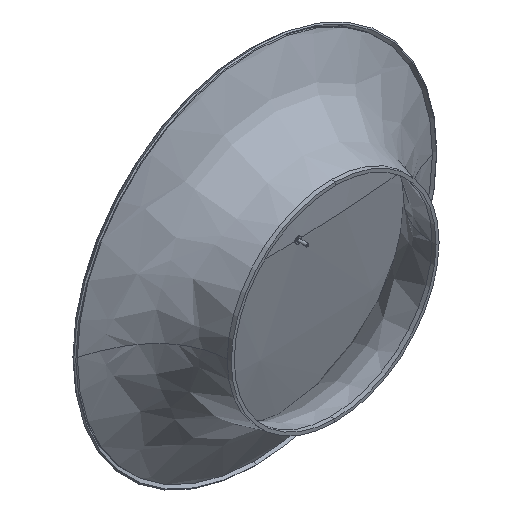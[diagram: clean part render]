
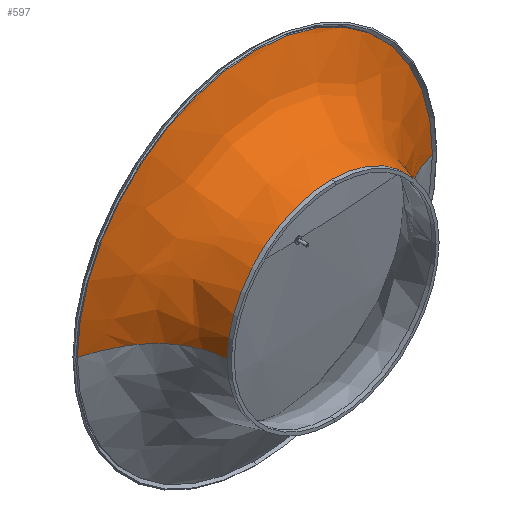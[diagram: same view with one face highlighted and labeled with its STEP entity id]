
A CAD part, isometric view. The second image highlights one B-rep face of the part: STEP entity #597.
In plain terms, the highlighted free-form (B-spline) face has degree [3, 3] with [8, 4] control points.
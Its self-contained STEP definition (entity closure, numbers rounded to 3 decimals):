
#14 = DIRECTION ( 'NONE',  ( 0., 1., 0. ) ) ;
#65 = DIRECTION ( 'NONE',  ( 0.005, 0., 1. ) ) ;
#88 = CARTESIAN_POINT ( 'NONE',  ( -173.253, 79.221, 350.485 ) ) ;
#109 = CARTESIAN_POINT ( 'NONE',  ( 175.998, 79.582, -0.801 ) ) ;
#116 = CARTESIAN_POINT ( 'NONE',  ( 108.861, 35.285, -0.495 ) ) ;
#119 = CARTESIAN_POINT ( 'NONE',  ( -163.643, 75.671, 0.745 ) ) ;
#127 = CARTESIAN_POINT ( 'NONE',  ( -108.861, 35.285, 0.495 ) ) ;
#158 = VERTEX_POINT ( 'NONE', #1166 ) ;
#198 = DIRECTION ( 'NONE',  ( 0., 1., 0. ) ) ;
#209 = AXIS2_PLACEMENT_3D ( 'NONE', #1171, #777, #785 ) ;
#222 = CARTESIAN_POINT ( 'NONE',  ( -102.131, 4., 206.607 ) ) ;
#242 = CARTESIAN_POINT ( 'NONE',  ( -162.153, 75.671, 328.03 ) ) ;
#250 = CARTESIAN_POINT ( 'NONE',  ( -147.446, 70.569, 298.277 ) ) ;
#257 = CARTESIAN_POINT ( 'NONE',  ( -124.812, 54.272, 0.568 ) ) ;
#283 = DIRECTION ( 'NONE',  ( 0.005, 0., 1. ) ) ;
#346 = CARTESIAN_POINT ( 'NONE',  ( -103.247, 14.225, 0.47 ) ) ;
#354 = CARTESIAN_POINT ( 'NONE',  ( 125.948, 54.272, 249.056 ) ) ;
#360 = CARTESIAN_POINT ( 'NONE',  ( 104.007, 4., 205.668 ) ) ;
#368 = CIRCLE ( 'NONE', #1063, 176. ) ;
#372 = CARTESIAN_POINT ( 'NONE',  ( -103.247, 14.225, 0.47 ) ) ;
#401 = CARTESIAN_POINT ( 'NONE',  ( -103.069, 4., 0.469 ) ) ;
#468 = EDGE_CURVE ( 'NONE', #158, #1169, #1583, .T. ) ;
#483 = AXIS2_PLACEMENT_3D ( 'NONE', #1120, #198, #65 ) ;
#489 = CARTESIAN_POINT ( 'NONE',  ( 103.247, 14.225, -0.47 ) ) ;
#511 = VERTEX_POINT ( 'NONE', #1325 ) ;
#597 = ADVANCED_FACE ( 'NONE', ( #1636 ), #1349, .F. ) ;
#609 = CARTESIAN_POINT ( 'NONE',  ( -174.396, 79.582, 352.797 ) ) ;
#619 = CARTESIAN_POINT ( 'NONE',  ( 104.187, 14.225, 206.025 ) ) ;
#637 = CARTESIAN_POINT ( 'NONE',  ( -175.998, 79.582, 0.801 ) ) ;
#644 = CARTESIAN_POINT ( 'NONE',  ( 0., 4., 0. ) ) ;
#693 = CARTESIAN_POINT ( 'NONE',  ( 163.643, 75.671, -0.745 ) ) ;
#696 = EDGE_CURVE ( 'NONE', #511, #158, #1201, .T. ) ;
#703 = CARTESIAN_POINT ( 'NONE',  ( 148.8, 70.569, -0.677 ) ) ;
#724 = VERTEX_POINT ( 'NONE', #1439 ) ;
#734 = CARTESIAN_POINT ( 'NONE',  ( -102.308, 14.225, 206.964 ) ) ;
#747 = EDGE_CURVE ( 'NONE', #809, #511, #1625, .T. ) ;
#753 = CARTESIAN_POINT ( 'NONE',  ( 163.643, 75.671, -0.745 ) ) ;
#760 = CARTESIAN_POINT ( 'NONE',  ( -174.845, 79.221, 0.796 ) ) ;
#762 = CARTESIAN_POINT ( 'NONE',  ( -108.861, 35.285, 0.495 ) ) ;
#768 = CARTESIAN_POINT ( 'NONE',  ( 103.069, 4., -0.469 ) ) ;
#777 = DIRECTION ( 'NONE',  ( 0., 1., 0. ) ) ;
#780 = CIRCLE ( 'NONE', #483, 176. ) ;
#785 = DIRECTION ( 'NONE',  ( 0.005, 0., 1. ) ) ;
#789 = CARTESIAN_POINT ( 'NONE',  ( 0.801, 79.582, 175.998 ) ) ;
#809 = VERTEX_POINT ( 'NONE', #401 ) ;
#830 = AXIS2_PLACEMENT_3D ( 'NONE', #644, #14, #1549 ) ;
#839 = CARTESIAN_POINT ( 'NONE',  ( 124.812, 54.272, -0.568 ) ) ;
#862 = CARTESIAN_POINT ( 'NONE',  ( -175.998, 79.582, 0.801 ) ) ;
#877 = CARTESIAN_POINT ( 'NONE',  ( 109.852, 35.285, 217.227 ) ) ;
#951 = ORIENTED_EDGE ( 'NONE', *, *, #1531, .F. ) ;
#956 = CARTESIAN_POINT ( 'NONE',  ( 103.069, 4., -0.469 ) ) ;
#968 = CARTESIAN_POINT ( 'NONE',  ( 175.998, 79.582, -0.801 ) ) ;
#978 = ORIENTED_EDGE ( 'NONE', *, *, #1309, .F. ) ;
#1002 = CARTESIAN_POINT ( 'NONE',  ( 150.154, 70.569, 296.923 ) ) ;
#1016 = ORIENTED_EDGE ( 'NONE', *, *, #468, .T. ) ;
#1054 = EDGE_CURVE ( 'NONE', #1139, #1169, #368, .T. ) ;
#1063 = AXIS2_PLACEMENT_3D ( 'NONE', #1192, #1536, #283 ) ;
#1110 = EDGE_LOOP ( 'NONE', ( #1450, #1016, #1530, #951, #978, #1584 ) ) ;
#1113 = CARTESIAN_POINT ( 'NONE',  ( 174.845, 79.221, -0.796 ) ) ;
#1120 = CARTESIAN_POINT ( 'NONE',  ( 0., 79.582, 0. ) ) ;
#1127 = CARTESIAN_POINT ( 'NONE',  ( -107.871, 35.285, 218.218 ) ) ;
#1139 = VERTEX_POINT ( 'NONE', #789 ) ;
#1166 = CARTESIAN_POINT ( 'NONE',  ( 103.069, 4., -0.469 ) ) ;
#1169 = VERTEX_POINT ( 'NONE', #1225 ) ;
#1171 = CARTESIAN_POINT ( 'NONE',  ( 0., 4., 0. ) ) ;
#1192 = CARTESIAN_POINT ( 'NONE',  ( 0., 79.582, 0. ) ) ;
#1199 = B_SPLINE_CURVE_WITH_KNOTS ( 'NONE', 3,
 ( #1644, #372, #762, #1657, #1271, #119, #1238, #637 ),
 .UNSPECIFIED., .F., .F.,
 ( 4, 1, 1, 1, 1, 4 ),
 ( 0., 0.167, 0.376, 0.425, 0.626, 0.65 ),
 .UNSPECIFIED. ) ;
#1201 = CIRCLE ( 'NONE', #209, 103.07 ) ;
#1225 = CARTESIAN_POINT ( 'NONE',  ( 175.998, 79.582, -0.801 ) ) ;
#1235 = CARTESIAN_POINT ( 'NONE',  ( 103.247, 14.225, -0.47 ) ) ;
#1238 = CARTESIAN_POINT ( 'NONE',  ( -174.845, 79.221, 0.796 ) ) ;
#1242 = CARTESIAN_POINT ( 'NONE',  ( 165.132, 75.671, 326.541 ) ) ;
#1263 = CARTESIAN_POINT ( 'NONE',  ( 176.436, 79.221, 348.894 ) ) ;
#1269 = CARTESIAN_POINT ( 'NONE',  ( 148.8, 70.569, -0.677 ) ) ;
#1271 = CARTESIAN_POINT ( 'NONE',  ( -148.8, 70.569, 0.677 ) ) ;
#1276 = CARTESIAN_POINT ( 'NONE',  ( -148.8, 70.569, 0.677 ) ) ;
#1309 = EDGE_CURVE ( 'NONE', #809, #724, #1199, .T. ) ;
#1325 = CARTESIAN_POINT ( 'NONE',  ( 0.469, 4., 103.069 ) ) ;
#1349 =( BOUNDED_SURFACE ( )  B_SPLINE_SURFACE ( 3, 3, ( 
 ( #1394, #222, #360, #768 ),
 ( #346, #734, #619, #489 ),
 ( #127, #1127, #877, #116 ),
 ( #257, #1367, #354, #1382 ),
 ( #1276, #250, #1002, #1269 ),
 ( #1493, #242, #1242, #753 ),
 ( #760, #88, #1263, #1113 ),
 ( #862, #609, #1506, #109 ) ),
 .UNSPECIFIED., .F., .F., .T. ) 
 B_SPLINE_SURFACE_WITH_KNOTS ( ( 4, 1, 1, 1, 1, 4 ),
 ( 4, 4 ),
 ( 0., 0.167, 0.376, 0.425, 0.626, 0.65 ),
 ( 0., 1. ),
 .UNSPECIFIED. ) 
 GEOMETRIC_REPRESENTATION_ITEM ( )  RATIONAL_B_SPLINE_SURFACE ( (
 ( 1., 0.333, 0.333, 1.),
 ( 1., 0.333, 0.333, 1.),
 ( 1., 0.333, 0.333, 1.),
 ( 1., 0.333, 0.333, 1.),
 ( 1., 0.333, 0.333, 1.),
 ( 1., 0.333, 0.333, 1.),
 ( 1., 0.333, 0.333, 1.),
 ( 1., 0.333, 0.333, 1.) ) ) 
 REPRESENTATION_ITEM ( '' )  SURFACE ( )  );
#1367 = CARTESIAN_POINT ( 'NONE',  ( -123.676, 54.272, 250.192 ) ) ;
#1382 = CARTESIAN_POINT ( 'NONE',  ( 124.812, 54.272, -0.568 ) ) ;
#1394 = CARTESIAN_POINT ( 'NONE',  ( -103.069, 4., 0.469 ) ) ;
#1439 = CARTESIAN_POINT ( 'NONE',  ( -175.998, 79.582, 0.801 ) ) ;
#1450 = ORIENTED_EDGE ( 'NONE', *, *, #696, .T. ) ;
#1451 = CARTESIAN_POINT ( 'NONE',  ( 108.861, 35.285, -0.495 ) ) ;
#1493 = CARTESIAN_POINT ( 'NONE',  ( -163.643, 75.671, 0.745 ) ) ;
#1506 = CARTESIAN_POINT ( 'NONE',  ( 177.6, 79.582, 351.195 ) ) ;
#1530 = ORIENTED_EDGE ( 'NONE', *, *, #1054, .F. ) ;
#1531 = EDGE_CURVE ( 'NONE', #724, #1139, #780, .T. ) ;
#1536 = DIRECTION ( 'NONE',  ( 0., 1., 0. ) ) ;
#1549 = DIRECTION ( 'NONE',  ( 0.005, 0., 1. ) ) ;
#1583 = B_SPLINE_CURVE_WITH_KNOTS ( 'NONE', 3,
 ( #956, #1235, #1451, #839, #703, #693, #1585, #968 ),
 .UNSPECIFIED., .F., .F.,
 ( 4, 1, 1, 1, 1, 4 ),
 ( 0., 0.167, 0.376, 0.425, 0.626, 0.65 ),
 .UNSPECIFIED. ) ;
#1584 = ORIENTED_EDGE ( 'NONE', *, *, #747, .T. ) ;
#1585 = CARTESIAN_POINT ( 'NONE',  ( 174.845, 79.221, -0.796 ) ) ;
#1625 = CIRCLE ( 'NONE', #830, 103.07 ) ;
#1636 = FACE_OUTER_BOUND ( 'NONE', #1110, .T. ) ;
#1644 = CARTESIAN_POINT ( 'NONE',  ( -103.069, 4., 0.469 ) ) ;
#1657 = CARTESIAN_POINT ( 'NONE',  ( -124.812, 54.272, 0.568 ) ) ;
